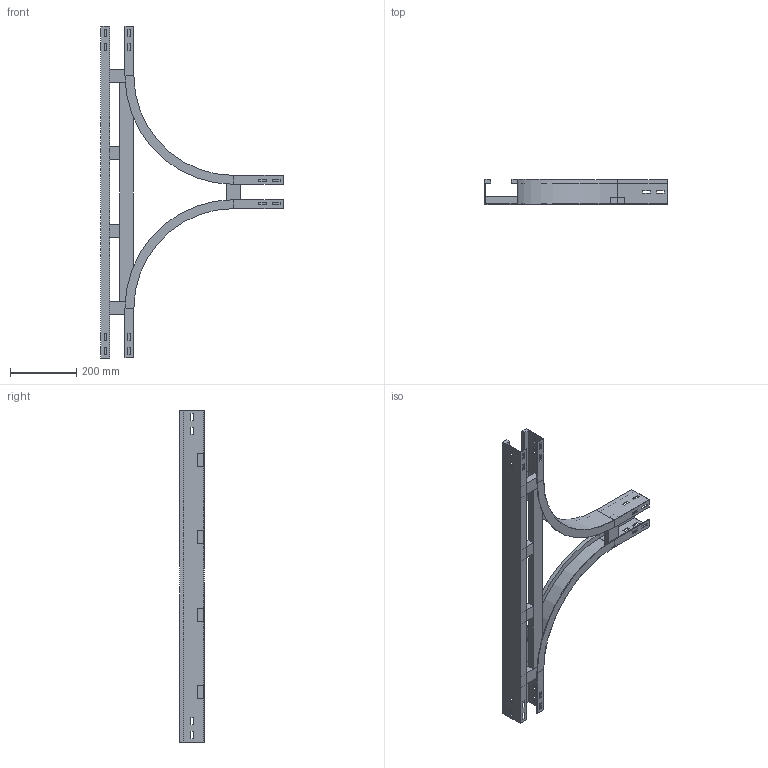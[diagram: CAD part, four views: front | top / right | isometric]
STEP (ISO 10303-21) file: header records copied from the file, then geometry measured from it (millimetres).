
FILE_DESCRIPTION (( 'STEP AP214' ), '1' );
FILE_NAME ('A2_15B3C100.step', '2025-02-21T15:52:59', ( '' ), ( '' ), 'SwSTEP 2.0', 'SolidWorks 2023', '' );
FILE_SCHEMA (( 'AUTOMOTIVE_DESIGN' ));
Length unit declared in the file: millimetre
Products named in the file (6): A2_TRAVERSINO_LONG._R300+100; TRAVERSINO_INTERMEDIO_R300+100; A2_LONGH.RETT_H75_R300+100; A2_LONGH.INTERNO 90°_H75_R300; TRAVERSINO_100; A2_15B3C100
Assembly tree (9 placements, depth 2):
  A2_15B3C100
    A2_LONGH.INTERNO 90°_H75_R300  x2
    A2_LONGH.RETT_H75_R300+100
    TRAVERSINO_100  x3
    A2_TRAVERSINO_LONG._R300+100
    TRAVERSINO_INTERMEDIO_R300+100  x2
Bounding box: 550 x 75 x 1000 mm (x, y, z)
Volume: 1855425 mm3; surface area: 740094.3 mm2
Topology: 9 solids, 9 shells, 194 faces, 496 edges, 320 vertices
Faces by surface type: plane 186, cylinder 8
Entity records: 3815 total; most frequent: CARTESIAN_POINT 638, ORIENTED_EDGE 616, DIRECTION 576, EDGE_CURVE 308, LINE 300, VECTOR 300, VERTEX_POINT 200, EDGE_LOOP 150
